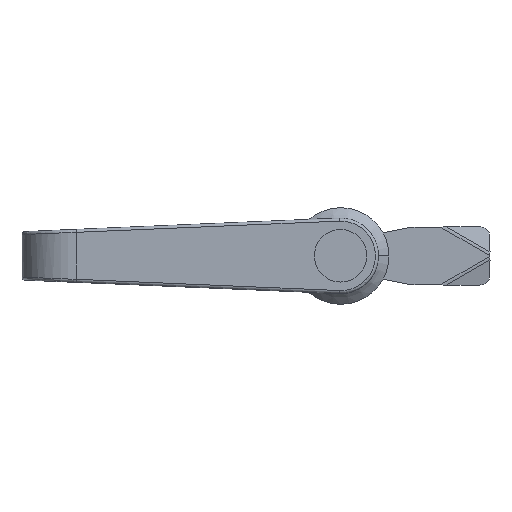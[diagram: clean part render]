
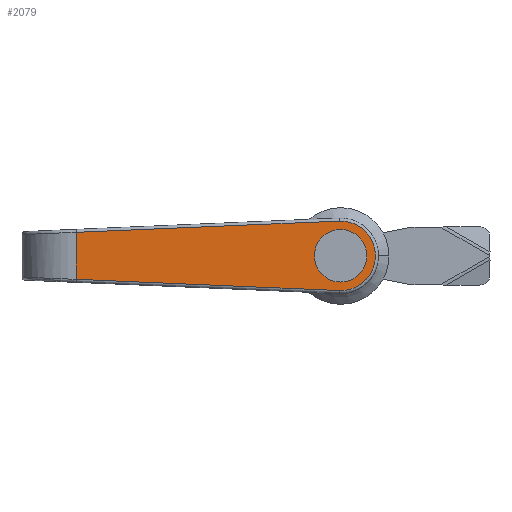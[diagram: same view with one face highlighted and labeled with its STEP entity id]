
A CAD part, top view. The second image highlights one B-rep face of the part: STEP entity #2079.
In plain terms, the highlighted planar face has unit normal (0, 0, 1) as drawn and (0, 1, 0) by its records, which use the part's own axes.
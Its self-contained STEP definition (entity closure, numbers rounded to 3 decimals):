
#959 = VERTEX_POINT ( 'NONE', #5456 ) ;
#961 = EDGE_CURVE ( 'NONE', #962, #959, #5455, .T. ) ;
#962 = VERTEX_POINT ( 'NONE', #5450 ) ;
#1983 = VERTEX_POINT ( 'NONE', #10793 ) ;
#1994 = VERTEX_POINT ( 'NONE', #11506 ) ;
#2022 = EDGE_CURVE ( 'NONE', #2023, #2099, #11665, .T. ) ;
#2023 = VERTEX_POINT ( 'NONE', #11650 ) ;
#2041 = EDGE_CURVE ( 'NONE', #959, #962, #11666, .T. ) ;
#2066 = ORIENTED_EDGE ( 'NONE', *, *, #2022, .T. ) ;
#2067 = ORIENTED_EDGE ( 'NONE', *, *, #2085, .T. ) ;
#2068 = EDGE_LOOP ( 'NONE', ( #2069, #2070 ) ) ;
#2069 = ORIENTED_EDGE ( 'NONE', *, *, #961, .T. ) ;
#2070 = ORIENTED_EDGE ( 'NONE', *, *, #2041, .T. ) ;
#2072 = EDGE_CURVE ( 'NONE', #1994, #1983, #11813, .T. ) ;
#2076 = EDGE_CURVE ( 'NONE', #1983, #2023, #11842, .T. ) ;
#2079 = ADVANCED_FACE ( 'NONE', ( #11838, #11837 ), #11822, .T. ) ;
#2080 = EDGE_LOOP ( 'NONE', ( #2081, #2082, #2066, #2067 ) ) ;
#2081 = ORIENTED_EDGE ( 'NONE', *, *, #2072, .T. ) ;
#2082 = ORIENTED_EDGE ( 'NONE', *, *, #2076, .T. ) ;
#2085 = EDGE_CURVE ( 'NONE', #2099, #1994, #11879, .T. ) ;
#2099 = VERTEX_POINT ( 'NONE', #11886 ) ;
#5450 = CARTESIAN_POINT ( 'NONE',  ( 0., 32., 8.7 ) ) ;
#5451 = DIRECTION ( 'NONE',  ( 0., 0., 1. ) ) ;
#5452 = DIRECTION ( 'NONE',  ( 0., -1., 0. ) ) ;
#5453 = CARTESIAN_POINT ( 'NONE',  ( 0., 32., 0. ) ) ;
#5454 = AXIS2_PLACEMENT_3D ( 'NONE', #5453, #5452, #5451 ) ;
#5455 = CIRCLE ( 'NONE', #5454, 8.7 ) ;
#5456 = CARTESIAN_POINT ( 'NONE',  ( 0., 32., -8.7 ) ) ;
#10793 = CARTESIAN_POINT ( 'NONE',  ( 7.778, 32., 87.5 ) ) ;
#11506 = CARTESIAN_POINT ( 'NONE',  ( -7.778, 32., 87.5 ) ) ;
#11650 = CARTESIAN_POINT ( 'NONE',  ( 11.49, 32., 0.49 ) ) ;
#11651 = DIRECTION ( 'NONE',  ( 0., 0., 1. ) ) ;
#11652 = DIRECTION ( 'NONE',  ( 0., 1., 0. ) ) ;
#11653 = AXIS2_PLACEMENT_3D ( 'NONE', #11664, #11652, #11651 ) ;
#11664 = CARTESIAN_POINT ( 'NONE',  ( 0., 32., 0. ) ) ;
#11665 = CIRCLE ( 'NONE', #11653, 11.5 ) ;
#11666 = CIRCLE ( 'NONE', #11731, 8.7 ) ;
#11671 = CARTESIAN_POINT ( 'NONE',  ( 0., 32., 0. ) ) ;
#11729 = DIRECTION ( 'NONE',  ( 0., 0., 1. ) ) ;
#11730 = DIRECTION ( 'NONE',  ( 0., -1., 0. ) ) ;
#11731 = AXIS2_PLACEMENT_3D ( 'NONE', #11671, #11730, #11729 ) ;
#11810 = DIRECTION ( 'NONE',  ( 1., 0., 0. ) ) ;
#11811 = VECTOR ( 'NONE', #11810, 1000. ) ;
#11812 = CARTESIAN_POINT ( 'NONE',  ( 0., 32., 87.5 ) ) ;
#11813 = LINE ( 'NONE', #11812, #11811 ) ;
#11818 = DIRECTION ( 'NONE',  ( 0., 0., 1. ) ) ;
#11819 = DIRECTION ( 'NONE',  ( 0., 1., 0. ) ) ;
#11820 = CARTESIAN_POINT ( 'NONE',  ( 0., 32., 0. ) ) ;
#11821 = AXIS2_PLACEMENT_3D ( 'NONE', #11820, #11819, #11818 ) ;
#11822 = PLANE ( 'NONE',  #11821 ) ;
#11837 = FACE_BOUND ( 'NONE', #2068, .T. ) ;
#11838 = FACE_OUTER_BOUND ( 'NONE', #2080, .T. ) ;
#11839 = DIRECTION ( 'NONE',  ( 0.043, 0., -0.999 ) ) ;
#11840 = VECTOR ( 'NONE', #11839, 1000. ) ;
#11841 = CARTESIAN_POINT ( 'NONE',  ( 7.778, 32., 87.5 ) ) ;
#11842 = LINE ( 'NONE', #11841, #11840 ) ;
#11876 = DIRECTION ( 'NONE',  ( 0.043, 0., 0.999 ) ) ;
#11877 = VECTOR ( 'NONE', #11876, 1000. ) ;
#11878 = CARTESIAN_POINT ( 'NONE',  ( -11.49, 32., 0.49 ) ) ;
#11879 = LINE ( 'NONE', #11878, #11877 ) ;
#11886 = CARTESIAN_POINT ( 'NONE',  ( -11.49, 32., 0.49 ) ) ;
